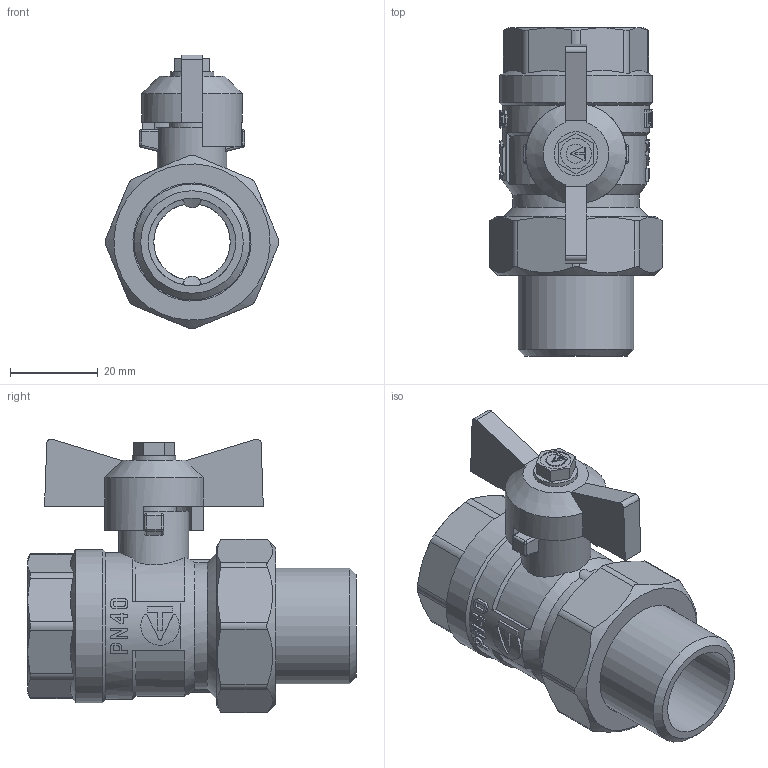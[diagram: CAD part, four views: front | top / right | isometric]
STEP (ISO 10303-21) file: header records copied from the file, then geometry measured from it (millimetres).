
FILE_DESCRIPTION(('STEP AP203'), '1');
FILE_NAME('VT.127.N.05', '', ('UNSPECIFIED'), ('UNSPECIFIED'), 'C3D Converter', 'C3D Toolkit', '');
FILE_SCHEMA(('CONFIG_CONTROL_DESIGN'));
Length unit declared in the file: millimetre
Bounding box: 39.72 x 75 x 62.58 mm (x, y, z)
Volume: 45981.2 mm3; surface area: 18340.6 mm2
Topology: 1 solids, 1 shells, 346 faces, 909 edges, 590 vertices
Faces by surface type: plane 183, cylinder 128, cone 27, sphere 8
Full cylindrical faces by diameter (mm): 7 x1, 10 x1, 10.2 x1, 16 x1, 17.5 x1, 20 x1, 21 x1, 24 x1, 24.118 x1, 26.441 x1, 27 x1, 33.249 x1, 33.6 x1, 35 x1
Entity records: 14667 total; most frequent: CARTESIAN_POINT 6511, ORIENTED_EDGE 1746, DIRECTION 1559, EDGE_CURVE 873, VERTEX_POINT 589, AXIS2_PLACEMENT_3D 563, LINE 433, VECTOR 433
